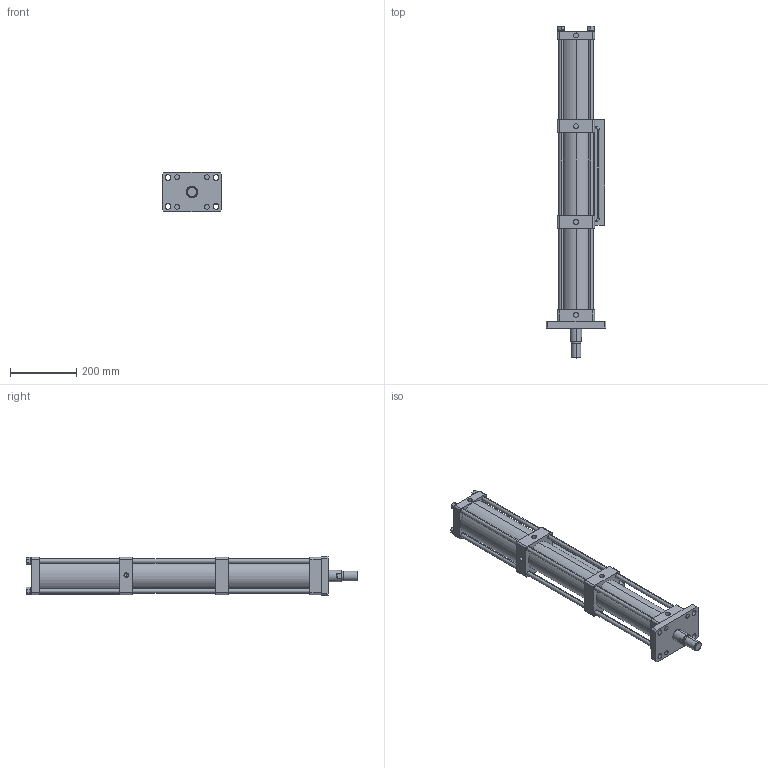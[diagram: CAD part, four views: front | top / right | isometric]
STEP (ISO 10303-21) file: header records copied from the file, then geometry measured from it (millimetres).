
FILE_DESCRIPTION (( 'STEP AP203' ), '1' );
FILE_NAME ('MPTF-80-200-15-5T.STEP', '2016-03-29T10:05:19', ( 'WIN' ), ( '' ), 'SwSTEP 2.0', 'SolidWorks 2014', '' );
FILE_SCHEMA (( 'CONFIG_CONTROL_DESIGN' ));
Length unit declared in the file: millimetre
Products named in the file (1): MPTF-80-200-15-5T
Bounding box: 180 x 1000 x 118 mm (x, y, z)
Volume: 3942849.3 mm3; surface area: 842996.4 mm2
Topology: 5 solids, 5 shells, 266 faces, 632 edges, 413 vertices
Faces by surface type: cylinder 136, plane 120, cone 6, torus 4
Entity records: 7973 total; most frequent: DIRECTION 1448, CARTESIAN_POINT 1382, ORIENTED_EDGE 1260, EDGE_CURVE 630, AXIS2_PLACEMENT_3D 555, VERTEX_POINT 413, EDGE_LOOP 349, VECTOR 338
